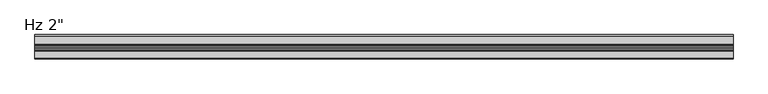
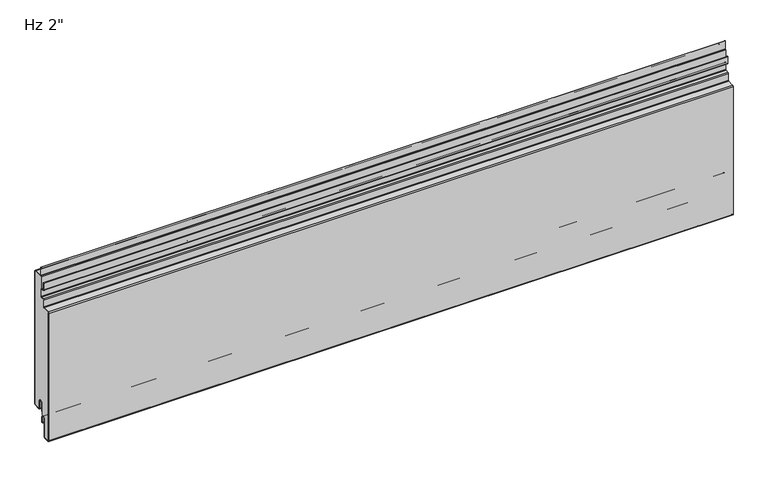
"""IFC4 building model written with IfcOpenShell, lengths in millimetres: plate geometry."""

from ifc_helpers import new_model, si_unit, point, frame, frame_2d, origin, place, context, project, spatial, polyline, circle_curve, ellipse_curve, trimmed, segment, composite_curve, outline, extrude, source, transform, mapped, element, save
from ifc_brep_helpers import plane_surface, cylinder_surface, revolved_surface, extruded_surface, advanced_brep


def plate_01add622(model_context):
    return source(origin(), model_context, "Body", "SolidModel", [
        extrude(outline(composite_curve([segment(polyline([(-22.8125, 259.7620957), (-22.8125, 303.00625), (-2.38125, 303.00625)]), True, "CONTINUOUS"), segment(trimmed(circle_curve(frame_2d((-2.38125, 301.625)), 1.38125), [point((-2.38125, 303.00625))], [point((-1.0, 301.625))], False, "CARTESIAN"), True, "CONTINUOUS"), segment(polyline([(-1.0, 301.625), (-1.0, 3.175)]), True, "CONTINUOUS"), segment(trimmed(circle_curve(frame_2d((-2.38125, 3.175)), 1.38125), [point((-1.0, 3.175))], [point((-2.38125, 1.79375))], False, "CARTESIAN"), True, "CONTINUOUS"), segment(polyline([(-2.38125, 1.79375), (-15.08125, 1.79375)]), True, "CONTINUOUS"), segment(trimmed(circle_curve(frame_2d((-15.08125, 3.175)), 1.38125), [point((-15.08125, 1.79375))], [point((-16.4625, 3.175))], False, "CARTESIAN"), True, "CONTINUOUS"), segment(polyline([(-16.4625, 3.175), (-16.4625, 19.05)]), True, "CONTINUOUS"), segment(trimmed(circle_curve(frame_2d((-21.43125, 19.05)), 4.96875), [point((-16.4625, 19.05))], [point((-26.4, 19.05))], True, "CARTESIAN"), True, "CONTINUOUS"), segment(polyline([(-26.4, 19.05), (-26.4, -6.9375), (-30.95625, -6.9375)]), True, "CONTINUOUS"), segment(trimmed(circle_curve(frame_2d((-30.95625, -11.90625)), 4.96875), [point((-30.95625, -6.9375))], [point((-35.925, -11.90625))], True, "CARTESIAN"), True, "CONTINUOUS"), segment(polyline([(-35.925, -11.90625), (-35.925, -50.0895546)]), True, "CONTINUOUS"), segment(trimmed(circle_curve(frame_2d((-37.30625, -50.0895546)), 1.38125), [point((-35.925, -50.0895546))], [point((-37.233961, -51.4689117))], False, "CARTESIAN"), True, "CONTINUOUS"), segment(polyline([(-37.233961, -51.4689117), (-48.346461, -52.0512931)]), True, "CONTINUOUS"), segment(trimmed(circle_curve(frame_2d((-48.41875, -50.6719361)), 1.38125), [point((-48.346461, -52.0512931))], [point((-49.8, -50.6719361))], False, "CARTESIAN"), True, "CONTINUOUS"), segment(polyline([(-49.8, -50.6719361), (-49.8, 236.6447607)]), True, "CONTINUOUS"), segment(trimmed(circle_curve(frame_2d((-48.41875, 236.6447607)), 1.38125), [point((-49.8, 236.6447607))], [point((-48.491039, 238.0241177))], False, "CARTESIAN"), True, "CONTINUOUS"), segment(polyline([(-48.491039, 238.0241177), (-34.7895807, 238.7421807)]), True, "CONTINUOUS"), segment(trimmed(circle_curve(frame_2d((-34.925, 241.3261347)), 2.5875), [point((-34.7895807, 238.7421807))], [point((-32.3375, 241.3261347))], True, "CARTESIAN"), True, "CONTINUOUS"), segment(polyline([(-32.3375, 241.3261347), (-32.3375, 255.4967085)]), True, "CONTINUOUS"), segment(trimmed(circle_curve(frame_2d((-30.95625, 255.4967085)), 1.38125), [point((-32.3375, 255.4967085))], [point((-31.028539, 256.8760655))], False, "CARTESIAN"), True, "CONTINUOUS"), segment(polyline([(-31.028539, 256.8760655), (-25.2645807, 257.1781418)]), True, "CONTINUOUS"), segment(trimmed(circle_curve(frame_2d((-25.4, 259.7620957)), 2.5875), [point((-25.2645807, 257.1781418))], [point((-22.8125, 259.7620957))], True, "CARTESIAN"), True, "CONTINUOUS")], self_intersect=False)), frame((-730.0, 0.0, 0.0), z_axis=(1.0, 0.0, 0.0), x_axis=(0.0, 1.0, 0.0)), (0.0, 0.0, 1.0), 1460.0),
        extrude(outline(composite_curve([segment(polyline([(-25.4, 0.79375), (-26.4, 0.79375), (-26.4, 19.05)]), True, "CONTINUOUS"), segment(trimmed(circle_curve(frame_2d((-21.43125, 19.05)), 4.96875), [point((-26.4, 19.05))], [point((-16.4625, 19.05))], False, "CARTESIAN"), True, "CONTINUOUS"), segment(polyline([(-16.4625, 19.05), (-16.4625, 3.175)]), True, "CONTINUOUS"), segment(trimmed(circle_curve(frame_2d((-15.08125, 3.175)), 1.38125), [point((-16.4625, 3.175))], [point((-15.08125, 1.79375))], True, "CARTESIAN"), True, "CONTINUOUS"), segment(polyline([(-15.08125, 1.79375), (-2.38125, 1.79375)]), True, "CONTINUOUS"), segment(trimmed(circle_curve(frame_2d((-2.38125, 3.175)), 1.38125), [point((-2.38125, 1.79375))], [point((-1.0, 3.175))], True, "CARTESIAN"), True, "CONTINUOUS"), segment(polyline([(-1.0, 3.175), (-1.0, 301.625)]), True, "CONTINUOUS"), segment(trimmed(circle_curve(frame_2d((-2.38125, 301.625)), 1.38125), [point((-1.0, 301.625))], [point((-2.38125, 303.00625))], True, "CARTESIAN"), True, "CONTINUOUS"), segment(polyline([(-2.38125, 303.00625), (-19.446875, 303.00625)]), True, "CONTINUOUS"), segment(trimmed(circle_curve(frame_2d((-19.446875, 305.59375)), 2.5875), [point((-19.446875, 303.00625))], [point((-22.034375, 305.59375))], False, "CARTESIAN"), True, "CONTINUOUS"), segment(polyline([(-22.034375, 305.59375), (-22.034375, 323.05625), (-21.034375, 323.05625), (-21.034375, 305.59375)]), True, "CONTINUOUS"), segment(trimmed(circle_curve(frame_2d((-19.446875, 305.59375)), 1.5875), [point((-21.034375, 305.59375))], [point((-19.446875, 304.00625))], True, "CARTESIAN"), True, "CONTINUOUS"), segment(polyline([(-19.446875, 304.00625), (-2.38125, 304.00625)]), True, "CONTINUOUS"), segment(trimmed(circle_curve(frame_2d((-2.38125, 301.625)), 2.38125), [point((-2.38125, 304.00625))], [point((0.0, 301.625))], False, "CARTESIAN"), True, "CONTINUOUS"), segment(polyline([(0.0, 301.625), (0.0, 3.175)]), True, "CONTINUOUS"), segment(trimmed(circle_curve(frame_2d((-2.38125, 3.175)), 2.38125), [point((0.0, 3.175))], [point((-2.38125, 0.79375))], False, "CARTESIAN"), True, "CONTINUOUS"), segment(polyline([(-2.38125, 0.79375), (-15.08125, 0.79375)]), True, "CONTINUOUS"), segment(trimmed(circle_curve(frame_2d((-15.08125, 3.175)), 2.38125), [point((-15.08125, 0.79375))], [point((-17.4625, 3.175))], False, "CARTESIAN"), True, "CONTINUOUS"), segment(polyline([(-17.4625, 3.175), (-17.4625, 19.05)]), True, "CONTINUOUS"), segment(trimmed(circle_curve(frame_2d((-21.43125, 19.05)), 3.96875), [point((-17.4625, 19.05))], [point((-25.4, 19.05))], True, "CARTESIAN"), True, "CONTINUOUS"), segment(polyline([(-25.4, 19.05), (-25.4, 0.79375)]), True, "CONTINUOUS")], self_intersect=False)), frame((-730.0, 0.0, 0.0), z_axis=(1.0, 0.0, 0.0), x_axis=(0.0, 1.0, 0.0)), (0.0, 0.0, 1.0), 1460.0),
        advanced_brep(
        [(-730.0, -25.4, -23.2314549), (-730.0, -26.9875, -23.2314549), (-730.0, -26.9875, -11.9205174), (-730.0, -34.925, -11.9205174), (-730.0, -34.925, -50.1038221), (-730.0, -37.181625, -52.4818086), (-730.0, -48.294125, -53.0641901), (-730.0, -50.8, -50.6862035), (-730.0, -50.8, 236.6447607), (-730.0, -48.543375, 239.0227473), (-730.0, -34.8419167, 239.7408103), (-730.0, -33.3375, 241.3261347), (-730.0, -33.3375, 255.4824411), (-730.0, -31.080875, 257.8604276), (-730.0, -25.3169167, 258.1625039), (-730.0, -23.8125, 259.7478283), (-730.0, -23.8125, 274.6232326), (-730.0, -25.4, 276.2107326), (-730.0, -29.5671875, 276.2107326), (-730.0, -31.9484375, 278.5919826), (-730.0, -31.9484375, 293.0836032), (-730.0, -30.1546875, 293.0836032), (-730.0, -30.1546875, 283.3544826), (-730.0, -30.9484375, 283.3544826), (-730.0, -30.9484375, 278.5919826), (-730.0, -29.5671875, 277.2107326), (-730.0, -25.4, 277.2107326), (-730.0, -22.8125, 274.6232326), (-730.0, -22.8125, 259.7478283), (-730.0, -25.2645807, 257.1638744), (-730.0, -31.028539, 256.8617981), (-730.0, -32.3375, 255.4824411), (-730.0, -32.3375, 241.3261347), (-730.0, -34.7895807, 238.7421807), (-730.0, -48.491039, 238.0241177), (-730.0, -49.8, 236.6447607), (-730.0, -49.8, -50.6862035), (-730.0, -48.346461, -52.0655606), (-730.0, -37.233961, -51.4831791), (-730.0, -35.925, -50.1038221), (-730.0, -35.925, -11.9205174), (-730.0, -25.9875, -11.9205174), (-730.0, -26.19375, -13.5080174), (-730.0, -25.4, -13.5080174), (730.0, -25.4, -23.2314549), (730.0, -25.4, -13.5080174), (730.0, -26.19375, -13.5080174), (730.0, -25.9875, -11.9205174), (730.0, -35.925, -11.9205174), (730.0, -35.925, -50.1038221), (730.0, -37.233961, -51.4831791), (730.0, -48.346461, -52.0655606), (730.0, -49.8, -50.6862035), (730.0, -49.8, 236.6447607), (730.0, -48.491039, 238.0241177), (730.0, -34.7895807, 238.7421807), (730.0, -32.3375, 241.3261347), (730.0, -32.3375, 255.4824411), (730.0, -31.028539, 256.8617981), (730.0, -25.2645807, 257.1638744), (730.0, -22.8125, 259.7478283), (730.0, -22.8125, 274.6232326), (730.0, -25.4, 277.2107326), (730.0, -29.5671875, 277.2107326), (730.0, -30.9484375, 278.5919826), (730.0, -30.9484375, 283.3544826), (730.0, -30.1546875, 283.3544826), (730.0, -30.1546875, 293.0836032), (730.0, -31.9484375, 293.0836032), (730.0, -31.9484375, 278.5919826), (730.0, -29.5671875, 276.2107326), (730.0, -25.4, 276.2107326), (730.0, -23.8125, 274.6232326), (730.0, -23.8125, 259.7478283), (730.0, -25.3169167, 258.1625039), (730.0, -31.080875, 257.8604276), (730.0, -33.3375, 255.4824411), (730.0, -33.3375, 241.3261347), (730.0, -34.8419167, 239.7408103), (730.0, -48.543375, 239.0227473), (730.0, -50.8, 236.6447607), (730.0, -50.8, -50.6862035), (730.0, -48.294125, -53.0641901), (730.0, -37.181625, -52.4818086), (730.0, -34.925, -50.1038221), (730.0, -34.925, -11.9205174), (730.0, -26.9875, -11.9205174), (730.0, -26.9875, -23.2314549)],
        [
            (0, 1, circle_curve(frame((-730.0, -26.19375, -23.2314549), z_axis=(-1.0, 0.0, 0.0), x_axis=(0.0, 0.0, -1.0)), 0.79375)),
            (1, 2),
            (2, 3, circle_curve(frame((-730.0, -30.95625, -11.9205174), z_axis=(1.0, 0.0, 0.0), x_axis=(0.0, 0.0, -1.0)), 3.96875)),
            (3, 4),
            (4, 5, circle_curve(frame((-730.0, -37.30625, -50.1038221), z_axis=(-1.0, 0.0, 0.0), x_axis=(0.0, 0.0, -1.0)), 2.38125)),
            (5, 6),
            (6, 7, circle_curve(frame((-730.0, -48.41875, -50.6862035), z_axis=(-1.0, 0.0, 0.0), x_axis=(0.0, 0.0, -1.0)), 2.38125)),
            (7, 8),
            (8, 9, circle_curve(frame((-730.0, -48.41875, 236.6447607), z_axis=(-1.0, 0.0, 0.0), x_axis=(0.0, 0.0, -1.0)), 2.38125)),
            (9, 10),
            (10, 11, circle_curve(frame((-730.0, -34.925, 241.3261347), z_axis=(1.0, 0.0, 0.0), x_axis=(0.0, 0.0, -1.0)), 1.5875)),
            (11, 12),
            (12, 13, circle_curve(frame((-730.0, -30.95625, 255.4824411), z_axis=(-1.0, 0.0, 0.0), x_axis=(0.0, 0.0, -1.0)), 2.38125)),
            (13, 14),
            (14, 15, circle_curve(frame((-730.0, -25.4, 259.7478283), z_axis=(1.0, 0.0, 0.0), x_axis=(0.0, 0.0, -1.0)), 1.5875)),
            (15, 16),
            (16, 17, circle_curve(frame((-730.0, -25.4, 274.6232326), z_axis=(1.0, 0.0, 0.0), x_axis=(0.0, 0.0, -1.0)), 1.5875)),
            (17, 18),
            (18, 19, circle_curve(frame((-730.0, -29.5671875, 278.5919826), z_axis=(-1.0, 0.0, 0.0), x_axis=(0.0, 0.0, -1.0)), 2.38125)),
            (19, 20),
            (20, 21, ellipse_curve(frame((-730.0, -31.0515625, 293.0836032), z_axis=(-1.0, 0.0, 0.0), x_axis=(0.0, 1.0, 0.0)), 0.896875, 0.7852275)),
            (21, 22),
            (22, 23),
            (23, 24),
            (24, 25, circle_curve(frame((-730.0, -29.5671875, 278.5919826), z_axis=(1.0, 0.0, 0.0), x_axis=(0.0, 0.0, -1.0)), 1.38125)),
            (25, 26),
            (26, 27, circle_curve(frame((-730.0, -25.4, 274.6232326), z_axis=(-1.0, 0.0, 0.0), x_axis=(0.0, 0.0, -1.0)), 2.5875)),
            (27, 28),
            (28, 29, circle_curve(frame((-730.0, -25.4, 259.7478283), z_axis=(-1.0, 0.0, 0.0), x_axis=(0.0, 0.0, -1.0)), 2.5875)),
            (29, 30),
            (30, 31, circle_curve(frame((-730.0, -30.95625, 255.4824411), z_axis=(1.0, 0.0, 0.0), x_axis=(0.0, 0.0, -1.0)), 1.38125)),
            (31, 32),
            (32, 33, circle_curve(frame((-730.0, -34.925, 241.3261347), z_axis=(-1.0, 0.0, 0.0), x_axis=(0.0, 0.0, -1.0)), 2.5875)),
            (33, 34),
            (34, 35, circle_curve(frame((-730.0, -48.41875, 236.6447607), z_axis=(1.0, 0.0, 0.0), x_axis=(0.0, 0.0, -1.0)), 1.38125)),
            (35, 36),
            (36, 37, circle_curve(frame((-730.0, -48.41875, -50.6862035), z_axis=(1.0, 0.0, 0.0), x_axis=(0.0, 0.0, -1.0)), 1.38125)),
            (37, 38),
            (38, 39, circle_curve(frame((-730.0, -37.30625, -50.1038221), z_axis=(1.0, 0.0, 0.0), x_axis=(0.0, 0.0, -1.0)), 1.38125)),
            (39, 40),
            (40, 41, circle_curve(frame((-730.0, -30.95625, -11.9205174), z_axis=(-1.0, 0.0, 0.0), x_axis=(0.0, 0.0, -1.0)), 4.96875)),
            (41, 42),
            (42, 43),
            (43, 0),
            (44, 45),
            (45, 46),
            (46, 47),
            (47, 48, circle_curve(frame((730.0, -30.95625, -11.9205174), z_axis=(1.0, 0.0, 0.0), x_axis=(0.0, 0.0, -1.0)), 4.96875)),
            (48, 49),
            (49, 50, circle_curve(frame((730.0, -37.30625, -50.1038221), z_axis=(-1.0, 0.0, 0.0), x_axis=(0.0, 0.0, -1.0)), 1.38125)),
            (50, 51),
            (51, 52, circle_curve(frame((730.0, -48.41875, -50.6862035), z_axis=(-1.0, 0.0, 0.0), x_axis=(0.0, 0.0, -1.0)), 1.38125)),
            (52, 53),
            (53, 54, circle_curve(frame((730.0, -48.41875, 236.6447607), z_axis=(-1.0, 0.0, 0.0), x_axis=(0.0, 0.0, -1.0)), 1.38125)),
            (54, 55),
            (55, 56, circle_curve(frame((730.0, -34.925, 241.3261347), z_axis=(1.0, 0.0, 0.0), x_axis=(0.0, 0.0, -1.0)), 2.5875)),
            (56, 57),
            (57, 58, circle_curve(frame((730.0, -30.95625, 255.4824411), z_axis=(-1.0, 0.0, 0.0), x_axis=(0.0, 0.0, -1.0)), 1.38125)),
            (58, 59),
            (59, 60, circle_curve(frame((730.0, -25.4, 259.7478283), z_axis=(1.0, 0.0, 0.0), x_axis=(0.0, 0.0, -1.0)), 2.5875)),
            (60, 61),
            (61, 62, circle_curve(frame((730.0, -25.4, 274.6232326), z_axis=(1.0, 0.0, 0.0), x_axis=(0.0, 0.0, -1.0)), 2.5875)),
            (62, 63),
            (63, 64, circle_curve(frame((730.0, -29.5671875, 278.5919826), z_axis=(-1.0, 0.0, 0.0), x_axis=(0.0, 0.0, -1.0)), 1.38125)),
            (64, 65),
            (65, 66),
            (66, 67),
            (67, 68, ellipse_curve(frame((730.0, -31.0515625, 293.0836032), z_axis=(1.0, 0.0, 0.0), x_axis=(0.0, 1.0, 0.0)), 0.896875, 0.7852275)),
            (68, 69),
            (69, 70, circle_curve(frame((730.0, -29.5671875, 278.5919826), z_axis=(1.0, 0.0, 0.0), x_axis=(0.0, 0.0, -1.0)), 2.38125)),
            (70, 71),
            (71, 72, circle_curve(frame((730.0, -25.4, 274.6232326), z_axis=(-1.0, 0.0, 0.0), x_axis=(0.0, 0.0, -1.0)), 1.5875)),
            (72, 73),
            (73, 74, circle_curve(frame((730.0, -25.4, 259.7478283), z_axis=(-1.0, 0.0, 0.0), x_axis=(0.0, 0.0, -1.0)), 1.5875)),
            (74, 75),
            (75, 76, circle_curve(frame((730.0, -30.95625, 255.4824411), z_axis=(1.0, 0.0, 0.0), x_axis=(0.0, 0.0, -1.0)), 2.38125)),
            (76, 77),
            (77, 78, circle_curve(frame((730.0, -34.925, 241.3261347), z_axis=(-1.0, 0.0, 0.0), x_axis=(0.0, 0.0, -1.0)), 1.5875)),
            (78, 79),
            (79, 80, circle_curve(frame((730.0, -48.41875, 236.6447607), z_axis=(1.0, 0.0, 0.0), x_axis=(0.0, 0.0, -1.0)), 2.38125)),
            (80, 81),
            (81, 82, circle_curve(frame((730.0, -48.41875, -50.6862035), z_axis=(1.0, 0.0, 0.0), x_axis=(0.0, 0.0, -1.0)), 2.38125)),
            (82, 83),
            (83, 84, circle_curve(frame((730.0, -37.30625, -50.1038221), z_axis=(1.0, 0.0, 0.0), x_axis=(0.0, 0.0, -1.0)), 2.38125)),
            (84, 85),
            (85, 86, circle_curve(frame((730.0, -30.95625, -11.9205174), z_axis=(-1.0, 0.0, 0.0), x_axis=(0.0, 0.0, -1.0)), 3.96875)),
            (86, 87),
            (87, 44, circle_curve(frame((730.0, -26.19375, -23.2314549), z_axis=(1.0, 0.0, 0.0), x_axis=(0.0, 0.0, -1.0)), 0.79375)),
            (36, 52),
            (51, 37),
            (50, 38),
            (49, 39),
            (48, 40),
            (47, 41),
            (42, 46),
            (45, 43),
            (22, 66),
            (65, 23),
            (21, 67),
            (20, 68),
            (34, 54),
            (53, 35),
            (32, 56),
            (55, 33),
            (30, 58),
            (57, 31),
            (28, 60),
            (59, 29),
            (24, 64),
            (63, 25),
            (26, 62),
            (61, 27),
            (19, 69),
            (17, 71),
            (70, 18),
            (15, 73),
            (72, 16),
            (13, 75),
            (74, 14),
            (11, 77),
            (76, 12),
            (9, 79),
            (78, 10),
            (7, 81),
            (80, 8),
            (5, 83),
            (82, 6),
            (3, 85),
            (84, 4),
            (1, 87),
            (86, 2),
            (44, 0),
        ],
        [
            plane_surface(frame((-730.0, -50.8, 152.4), z_axis=(-1.0, 0.0, 0.0), x_axis=(0.0, -1.0, 0.0))),
            plane_surface(frame((730.0, -50.8, 152.4), z_axis=(1.0, 0.0, 0.0), x_axis=(0.0, -1.0, 0.0))),
            revolved_surface(polyline([(730.0, -48.41875, -52.0674535), (-730.0, -48.41875, -52.0674535)]), (-730.0, -48.41875, -50.6862035), (1.0, 0.0, 0.0)),
            plane_surface(frame((-730.0, -37.233961, -51.4831791), z_axis=(0.0, -0.05233595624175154, 0.9986295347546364), x_axis=(1.0, 0.0, 0.0))),
            revolved_surface(polyline([(730.0, -37.30625, -51.485072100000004), (-730.0, -37.30625, -51.485072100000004)]), (-730.0, -37.30625, -50.1038221), (1.0, 0.0, 0.0)),
            plane_surface(frame((-730.0, -35.925, -11.9205174), z_axis=(0.0, -1.0, 0.0), x_axis=(1.0, 0.0, 0.0))),
            cylinder_surface(frame((-730.0, -30.95625, -11.9205174), z_axis=(-1.0, 0.0, 0.0), x_axis=(0.0, 0.0, -1.0)), 4.96875),
            plane_surface(frame((-730.0, -25.4, -13.5080174), z_axis=(0.0, 0.0, 1.0), x_axis=(1.0, 0.0, 0.0))),
            plane_surface(frame((-730.0, -26.19375, -13.5080174), z_axis=(0.0, 0.9916655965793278, -0.12883844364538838), x_axis=(1.0, 0.0, 0.0))),
            plane_surface(frame((-730.0, -30.9484375, 283.3544826), z_axis=(0.0, 0.0, -1.0), x_axis=(1.0, 0.0, 0.0))),
            plane_surface(frame((-730.0, -30.1546875, 283.3544826), z_axis=(0.0, 1.0, 0.0), x_axis=(1.0, 0.0, 0.0))),
            extruded_surface(trimmed(ellipse_curve(frame((-730.0, -31.0515625, 293.0836032), z_axis=(1.0, 0.0, 0.0), x_axis=(0.0, 1.0, 0.0)), 0.896875, 0.7852275), [point((-730.0, -30.1546875, 293.0836032))], [point((-730.0, -31.9484375, 293.0836032))], True, "CARTESIAN"), (1460.0, 0.0, 0.0), 1460.0),
            revolved_surface(polyline([(730.0, -48.41875, 235.2635107), (-730.0, -48.41875, 235.2635107)]), (-730.0, -48.41875, 236.6447607), (1.0, 0.0, 0.0)),
            cylinder_surface(frame((-730.0, -34.925, 241.3261347), z_axis=(-1.0, 0.0, 0.0), x_axis=(0.0, 0.0, -1.0)), 2.5875),
            plane_surface(frame((-730.0, -48.491039, 238.0241177), z_axis=(0.0, 0.05233595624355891, -0.9986295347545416), x_axis=(1.0, 0.0, 0.0))),
            plane_surface(frame((-730.0, -49.8, -50.6862035), z_axis=(0.0, 1.0, 0.0), x_axis=(1.0, 0.0, 0.0))),
            revolved_surface(polyline([(730.0, -30.95625, 254.1011911), (-730.0, -30.95625, 254.1011911)]), (-730.0, -30.95625, 255.4824411), (1.0, 0.0, 0.0)),
            cylinder_surface(frame((-730.0, -25.4, 259.7478283), z_axis=(-1.0, 0.0, 0.0), x_axis=(0.0, 0.0, -1.0)), 2.5875),
            plane_surface(frame((-730.0, -31.028539, 256.8617981), z_axis=(0.0, 0.052335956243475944, -0.9986295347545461), x_axis=(1.0, 0.0, 0.0))),
            plane_surface(frame((-730.0, -32.3375, 241.3261347), z_axis=(0.0, 1.0, 0.0), x_axis=(1.0, 0.0, 0.0))),
            revolved_surface(polyline([(730.0, -29.5671875, 277.2107326), (-730.0, -29.5671875, 277.2107326)]), (-730.0, -29.5671875, 278.5919826), (1.0, 0.0, 0.0)),
            cylinder_surface(frame((-730.0, -25.4, 274.6232326), z_axis=(-1.0, 0.0, 0.0), x_axis=(0.0, 0.0, -1.0)), 2.5875),
            plane_surface(frame((-730.0, -25.4, 277.2107326), z_axis=(0.0, 0.0, 1.0), x_axis=(1.0, 0.0, 0.0))),
            plane_surface(frame((-730.0, -30.9484375, 278.5919826), z_axis=(0.0, 1.0, 0.0), x_axis=(1.0, 0.0, 0.0))),
            plane_surface(frame((-730.0, -31.9484375, 293.0836032), z_axis=(0.0, -1.0, 0.0), x_axis=(1.0, 0.0, 0.0))),
            plane_surface(frame((-730.0, -29.5671875, 276.2107326), z_axis=(0.0, 0.0, -1.0), x_axis=(1.0, 0.0, 0.0))),
            cylinder_surface(frame((-730.0, -29.5671875, 278.5919826), z_axis=(-1.0, 0.0, 0.0), x_axis=(0.0, 0.0, -1.0)), 2.38125),
            plane_surface(frame((-730.0, -22.8125, 259.7478283), z_axis=(0.0, 1.0, 0.0), x_axis=(1.0, 0.0, 0.0))),
            plane_surface(frame((-730.0, -23.8125, 274.6232326), z_axis=(0.0, -1.0, 0.0), x_axis=(1.0, 0.0, 0.0))),
            plane_surface(frame((-730.0, -25.3169167, 258.1625039), z_axis=(0.0, -0.05233595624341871, 0.9986295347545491), x_axis=(1.0, 0.0, 0.0))),
            revolved_surface(polyline([(730.0, -25.4, 258.1603283), (-730.0, -25.4, 258.1603283)]), (-730.0, -25.4, 259.7478283), (1.0, 0.0, 0.0)),
            revolved_surface(polyline([(730.0, -25.4, 273.0357326), (-730.0, -25.4, 273.0357326)]), (-730.0, -25.4, 274.6232326), (1.0, 0.0, 0.0)),
            plane_surface(frame((-730.0, -33.3375, 255.4824411), z_axis=(0.0, -1.0, 0.0), x_axis=(1.0, 0.0, 0.0))),
            plane_surface(frame((-730.0, -34.8419167, 239.7408103), z_axis=(0.0, -0.05233595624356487, 0.9986295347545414), x_axis=(1.0, 0.0, 0.0))),
            revolved_surface(polyline([(730.0, -34.925, 239.7386347), (-730.0, -34.925, 239.7386347)]), (-730.0, -34.925, 241.3261347), (1.0, 0.0, 0.0)),
            cylinder_surface(frame((-730.0, -30.95625, 255.4824411), z_axis=(-1.0, 0.0, 0.0), x_axis=(0.0, 0.0, -1.0)), 2.38125),
            plane_surface(frame((-730.0, -50.8, 236.6447607), z_axis=(0.0, -1.0, 0.0), x_axis=(1.0, 0.0, 0.0))),
            plane_surface(frame((-730.0, -48.294125, -53.0641901), z_axis=(0.0, 0.05233595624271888, -0.9986295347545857), x_axis=(1.0, 0.0, 0.0))),
            cylinder_surface(frame((-730.0, -48.41875, -50.6862035), z_axis=(-1.0, 0.0, 0.0), x_axis=(0.0, 0.0, -1.0)), 2.38125),
            cylinder_surface(frame((-730.0, -48.41875, 236.6447607), z_axis=(-1.0, 0.0, 0.0), x_axis=(0.0, 0.0, -1.0)), 2.38125),
            plane_surface(frame((-730.0, -34.925, -50.1038221), z_axis=(0.0, 1.0, 0.0), x_axis=(1.0, 0.0, 0.0))),
            plane_surface(frame((-730.0, -26.9875, -11.9205174), z_axis=(0.0, -1.0, 0.0), x_axis=(1.0, 0.0, 0.0))),
            revolved_surface(polyline([(730.0, -30.95625, -15.8892674), (-730.0, -30.95625, -15.8892674)]), (-730.0, -30.95625, -11.9205174), (1.0, 0.0, 0.0)),
            cylinder_surface(frame((-730.0, -37.30625, -50.1038221), z_axis=(-1.0, 0.0, 0.0), x_axis=(0.0, 0.0, -1.0)), 2.38125),
            plane_surface(frame((-730.0, -25.4, -23.2314549), z_axis=(0.0, 1.0, 0.0), x_axis=(1.0, 0.0, 0.0))),
            cylinder_surface(frame((-730.0, -26.19375, -23.2314549), z_axis=(-1.0, 0.0, 0.0), x_axis=(0.0, 0.0, -1.0)), 0.79375),
        ],
        [
            (0, [[1, 2, 3, 4, 5, 6, 7, 8, 9, 10, 11, 12, 13, 14, 15, 16, 17, 18, 19, 20, 21, 22, 23, 24, 25, 26, 27, 28, 29, 30, 31, 32, 33, 34, 35, 36, 37, 38, 39, 40, 41, 42, 43, 44]]),
            (1, [[45, 46, 47, 48, 49, 50, 51, 52, 53, 54, 55, 56, 57, 58, 59, 60, 61, 62, 63, 64, 65, 66, 67, 68, 69, 70, 71, 72, 73, 74, 75, 76, 77, 78, 79, 80, 81, 82, 83, 84, 85, 86, 87, 88]]),
            (2, [[89, -52, 90, -37]]),
            (3, [[-90, -51, 91, -38]]),
            (4, [[-91, -50, 92, -39]]),
            (5, [[-92, -49, 93, -40]]),
            (6, [[-93, -48, 94, -41]]),
            (7, [[95, -46, 96, -43]]),
            (8, [[-94, -47, -95, -42]]),
            (9, [[97, -66, 98, -23]]),
            (10, [[99, -67, -97, -22]]),
            (11, [[100, -68, -99, -21]]),
            (12, [[101, -54, 102, -35]]),
            (13, [[103, -56, 104, -33]]),
            (14, [[-104, -55, -101, -34]]),
            (15, [[-102, -53, -89, -36]]),
            (16, [[105, -58, 106, -31]]),
            (17, [[107, -60, 108, -29]]),
            (18, [[-108, -59, -105, -30]]),
            (19, [[-106, -57, -103, -32]]),
            (20, [[109, -64, 110, -25]]),
            (21, [[111, -62, 112, -27]]),
            (22, [[-110, -63, -111, -26]]),
            (23, [[-98, -65, -109, -24]]),
            (24, [[113, -69, -100, -20]]),
            (25, [[114, -71, 115, -18]]),
            (26, [[-115, -70, -113, -19]]),
            (27, [[-112, -61, -107, -28]]),
            (28, [[116, -73, 117, -16]]),
            (29, [[118, -75, 119, -14]]),
            (30, [[-119, -74, -116, -15]]),
            (31, [[-117, -72, -114, -17]]),
            (32, [[120, -77, 121, -12]]),
            (33, [[122, -79, 123, -10]]),
            (34, [[-123, -78, -120, -11]]),
            (35, [[-121, -76, -118, -13]]),
            (36, [[124, -81, 125, -8]]),
            (37, [[126, -83, 127, -6]]),
            (38, [[-127, -82, -124, -7]]),
            (39, [[-125, -80, -122, -9]]),
            (40, [[128, -85, 129, -4]]),
            (41, [[130, -87, 131, -2]]),
            (42, [[-131, -86, -128, -3]]),
            (43, [[-129, -84, -126, -5]]),
            (44, [[-96, -45, 132, -44]]),
            (45, [[-132, -88, -130, -1]]),
        ],
    ),
    ])


if __name__ == "__main__":
    model = new_model("IFC4")
    model_context = context("Model", 3, world=origin())
    ifc_project = project(units=[si_unit("LENGTHUNIT", "METRE", prefix="MILLI")], contexts=[model_context])
    site = spatial("IfcSite", under=ifc_project)
    building = spatial("IfcBuilding", under=site)
    placement = place(None, origin())
    plate_shape = plate_01add622(model_context)
    element("IfcPlate", 1, ObjectType="KIP-12-DWHR-R19-CP-Hz-F : Hz 2\"", at=placement, inside=building, context=model_context, shape_type="MappedRepresentation", body=[
        mapped(plate_shape, transform((0.0, 0.0, 0.0), x_axis=(1.0, 0.0, 0.0), y_axis=(0.0, 1.0, 0.0), z_axis=(0.0, 0.0, 1.0))),
    ])
    save(model, "model.ifc")
